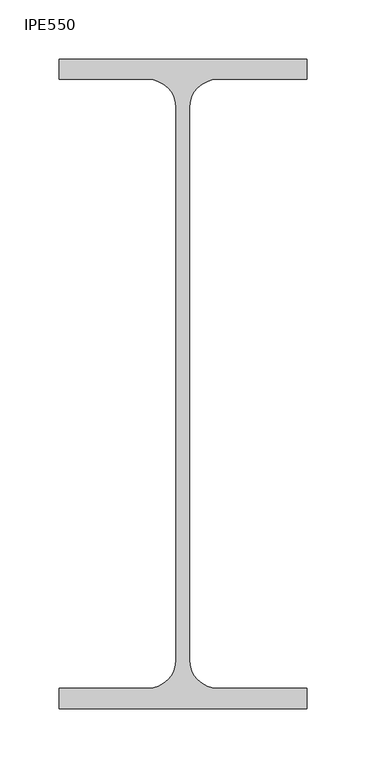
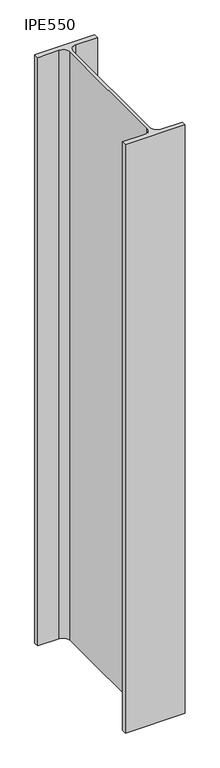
"""IFC4 building model written with IfcOpenShell, lengths in millimetres: column geometry, IPE-Poutrelles-Poteau : IPE550."""

from ifc_helpers import new_model, si_unit, point, frame, frame_2d, origin, place, context, project, spatial, polyline, circle_curve, trimmed, segment, composite_curve, outline, extrude, source, transform, mapped, element, save


def ipe550_67ffbe16(model_context):
    return source(origin(), model_context, "Body", "SweptSolid", [
        extrude(outline(composite_curve([segment(polyline([(105.0, 275.0), (105.0, 257.8), (29.55, 257.8)]), True, "CONTINUOUS"), segment(trimmed(circle_curve(frame_2d((29.55, 233.8)), 24.0), [point((29.55, 257.8))], [point((5.55, 233.8))], True, "CARTESIAN"), True, "CONTINUOUS"), segment(polyline([(5.55, 233.8), (5.55, -233.8)]), True, "CONTINUOUS"), segment(trimmed(circle_curve(frame_2d((29.55, -233.8)), 24.0), [point((5.55, -233.8))], [point((29.55, -257.8))], True, "CARTESIAN"), True, "CONTINUOUS"), segment(polyline([(29.55, -257.8), (105.0, -257.8), (105.0, -275.0), (-105.0, -275.0), (-105.0, -257.8), (-29.55, -257.8)]), True, "CONTINUOUS"), segment(trimmed(circle_curve(frame_2d((-29.55, -233.8)), 24.0), [point((-29.55, -257.8))], [point((-5.55, -233.8))], True, "CARTESIAN"), True, "CONTINUOUS"), segment(polyline([(-5.55, -233.8), (-5.55, 233.8)]), True, "CONTINUOUS"), segment(trimmed(circle_curve(frame_2d((-29.55, 233.8)), 24.0), [point((-5.55, 233.8))], [point((-29.55, 257.8))], True, "CARTESIAN"), True, "CONTINUOUS"), segment(polyline([(-29.55, 257.8), (-105.0, 257.8), (-105.0, 275.0), (105.0, 275.0)]), True, "CONTINUOUS")], self_intersect=False)), frame((0.0, 0.0, -250.0), z_axis=(0.0, 0.0, 1.0), x_axis=(1.0, 0.0, 0.0)), (0.0, 0.0, 1.0), 2180.0),
    ])


if __name__ == "__main__":
    model = new_model("IFC4")
    model_context = context("Model", 3, world=origin())
    ifc_project = project(units=[si_unit("LENGTHUNIT", "METRE", prefix="MILLI")], contexts=[model_context])
    site = spatial("IfcSite", under=ifc_project)
    building = spatial("IfcBuilding", under=site)
    placement = place(None, origin())
    ipe550_shape = ipe550_67ffbe16(model_context)
    element("IfcColumn", 1, ObjectType="IPE-Poutrelles-Poteau : IPE550", at=placement, inside=building, context=model_context, shape_type="MappedRepresentation", body=[
        mapped(ipe550_shape, transform((0.0, 0.0, 0.0), x_axis=(1.0, 0.0, 0.0), y_axis=(0.0, 1.0, 0.0), z_axis=(0.0, 0.0, 1.0))),
    ])
    save(model, "model.ifc")
